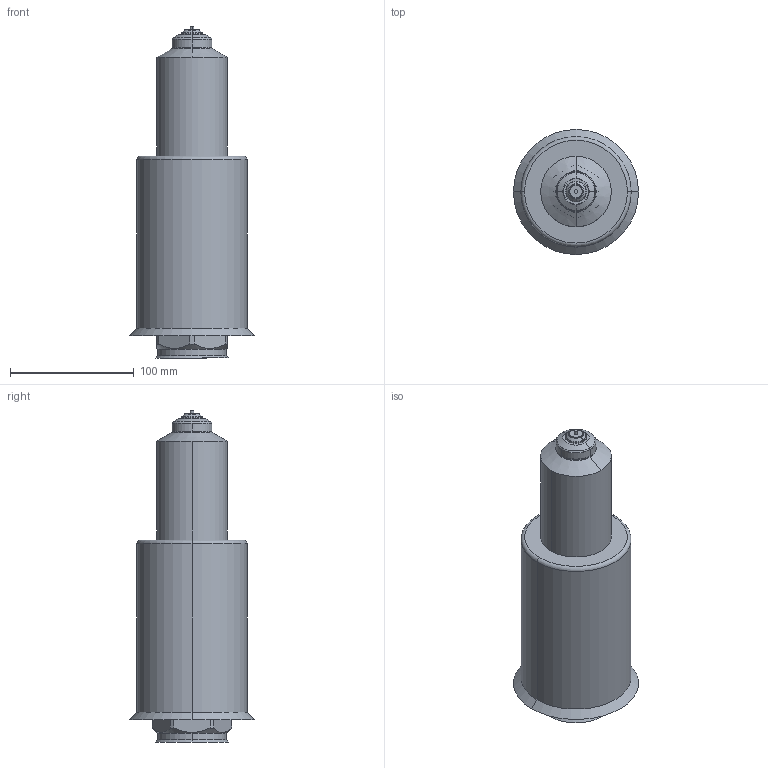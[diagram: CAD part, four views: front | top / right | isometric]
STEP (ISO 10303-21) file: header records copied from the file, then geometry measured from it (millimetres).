
FILE_DESCRIPTION (( 'STEP AP214' ), '1' );
FILE_NAME ('T24_OPEN_250_BAND.STEP', '2009-05-11T13:32:08', ( 'Synventive Molding Solutions' ), ( 'Synventive Molding Solutions' ), 'SwSTEP 2.0', 'SolidWorks 2008', '' );
FILE_SCHEMA (( 'AUTOMOTIVE_DESIGN' ));
Length unit declared in the file: millimetre
Products named in the file (1): T24_OPEN_250_BAND
Bounding box: 101 x 101 x 268 mm (x, y, z)
Volume: 1744881 mm3; surface area: 134625.6 mm2
Topology: 4 solids, 5 shells, 427 faces, 1083 edges, 676 vertices
Faces by surface type: cylinder 166, plane 154, torus 67, cone 32, sphere 4, bspline 4
Entity records: 19205 total; most frequent: CARTESIAN_POINT 4097, DIRECTION 2242, ORIENTED_EDGE 2158, EDGE_CURVE 1079, AXIS2_PLACEMENT_3D 877, VERTEX_POINT 676, LINE 488, VECTOR 488
